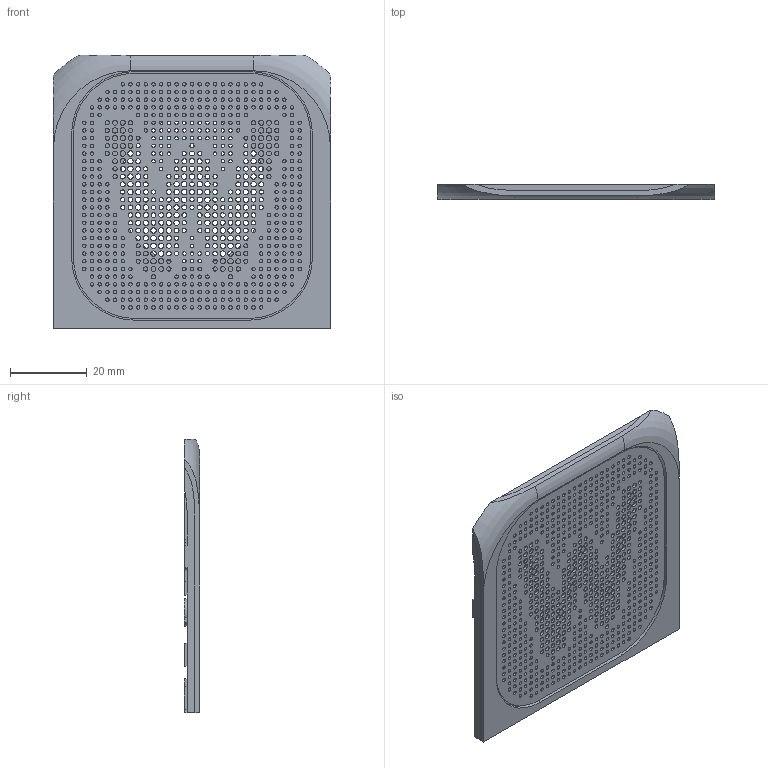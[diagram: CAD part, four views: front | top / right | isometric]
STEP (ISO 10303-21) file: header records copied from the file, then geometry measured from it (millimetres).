
FILE_DESCRIPTION(('Open CASCADE Model'),'2;1');
FILE_NAME('C03_GRILLE - test section with cut boundaries', '2026-09-06T11:35:16',('Author'),('Open CASCADE'), 'Open CASCADE STEP processor 7.8','build123d','Unknown');
FILE_SCHEMA(('AUTOMOTIVE_DESIGN { 1 0 10303 214 1 1 1 1 }'));
Length unit declared in the file: millimetre
Products named in the file (7): C03_GRILLE - test section with cut boundaries; front_chassis_PA12; front_grip_skin_finegrain_cream; grille_W_perforated_0.8mm_charcoal; SOLID; grille_perimeter_PSA_0.13
Assembly tree (6 placements, depth 3):
  C03_GRILLE - test section with cut boundaries
    front_chassis_PA12
    front_grip_skin_finegrain_cream
    grille_W_perforated_0.8mm_charcoal
      SOLID
    grille_perimeter_PSA_0.13
      SOLID
Bounding box: 72 x 3.9 x 71 mm (x, y, z)
Volume: 11495.7 mm3; surface area: 20659 mm2
Topology: 4 solids, 4 shells, 859 faces, 2519 edges, 1680 vertices
Faces by surface type: cylinder 754, plane 95, torus 10
Full cylindrical faces by diameter (mm): 0.9 x452, 1.1 x85, 1.25 x73, 1.4 x111, 3.2 x2, 38.5 x1
Entity records: 66781 total; most frequent: CARTESIAN_POINT 12174, DIRECTION 10582, ORIENTED_EDGE 5038, PCURVE 5038, DEFINITIONAL_REPRESENTATION 5038, LINE 4296, VECTOR 4296, CIRCLE 3024
